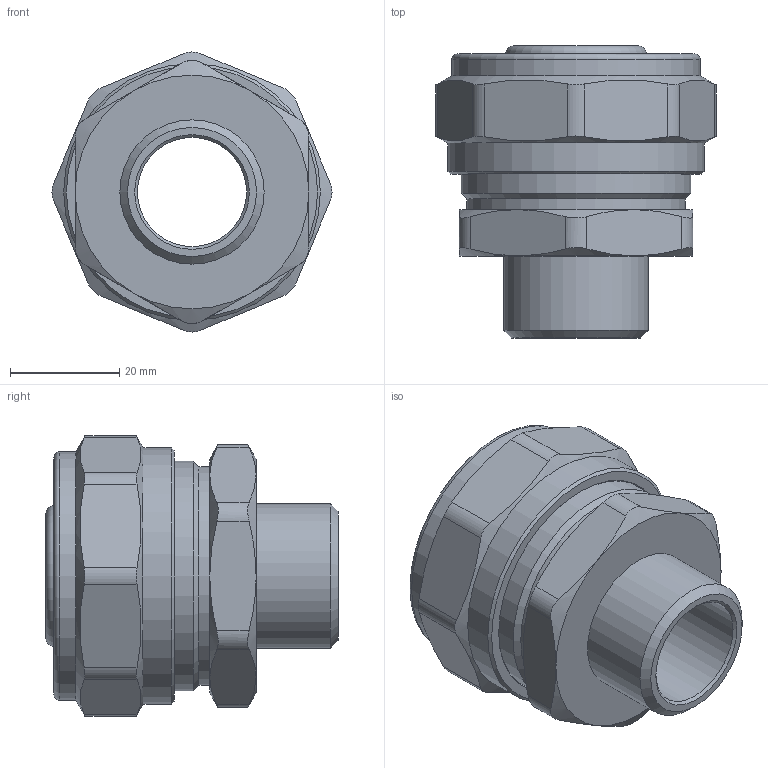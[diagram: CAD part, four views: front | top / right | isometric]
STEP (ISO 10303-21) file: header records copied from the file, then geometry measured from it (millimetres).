
FILE_DESCRIPTION(('STEP AP203'), '1');
FILE_NAME('VTm.301.N.003205', '', ('UNSPECIFIED'), ('UNSPECIFIED'), 'C3D Converter', 'C3D Toolkit', '');
FILE_SCHEMA(('CONFIG_CONTROL_DESIGN'));
Length unit declared in the file: millimetre
Products named in the file (1): ВР.302634.055.000 СБ
Bounding box: 51.3 x 53.5 x 51.3 mm (x, y, z)
Volume: 44144.9 mm3; surface area: 22083.8 mm2
Topology: 1 solids, 1 shells, 329 faces, 883 edges, 579 vertices
Faces by surface type: extrusion 129, plane 101, cylinder 44, torus 29, cone 26
Full cylindrical faces by diameter (mm): 20 x1, 22.8 x4, 25.75 x5, 26 x1, 26.441 x1, 32.1 x1, 32.2 x1, 32.7 x1, 40 x1, 40.376 x1, 42 x1, 45.5 x1, 47 x1
Entity records: 12882 total; most frequent: CARTESIAN_POINT 5525, ORIENTED_EDGE 1662, DIRECTION 1084, EDGE_CURVE 831, VERTEX_POINT 576, B_SPLINE_CURVE_WITH_KNOTS 493, VECTOR 464, EDGE_LOOP 397
